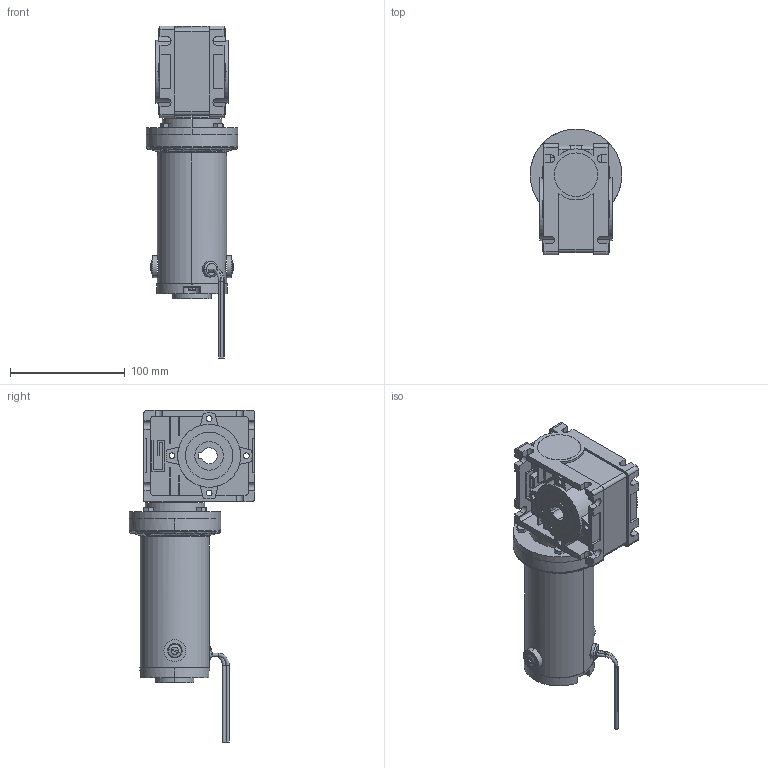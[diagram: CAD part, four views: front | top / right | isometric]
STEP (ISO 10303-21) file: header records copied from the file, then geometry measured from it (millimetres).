
FILE_DESCRIPTION (( 'STEP AP203' ), '1' );
FILE_NAME ('PM6015-RA3000T.STEP', '2008-06-30T16:30:56', ( 'eng-rjs' ), ( 'groschopp' ), 'SwSTEP 2.0', 'SolidWorks 2008', '' );
FILE_SCHEMA (( 'CONFIG_CONTROL_DESIGN' ));
Length unit declared in the file: inch
Products named in the file (1): PM6015-RA3000T
Bounding box: 80.01 x 110 x 289.92 mm (x, y, z)
Surface area: 108763.8 mm2 (no closed solid volume)
Topology: 0 solids, 21 shells, 490 faces, 1438 edges, 966 vertices
Faces by surface type: plane 267, cylinder 162, cone 26, torus 22, bspline 13
Entity records: 17591 total; most frequent: CARTESIAN_POINT 4489, DIRECTION 2704, ORIENTED_EDGE 2630, EDGE_CURVE 1438, VERTEX_POINT 966, AXIS2_PLACEMENT_3D 928, VECTOR 848, LINE 848
